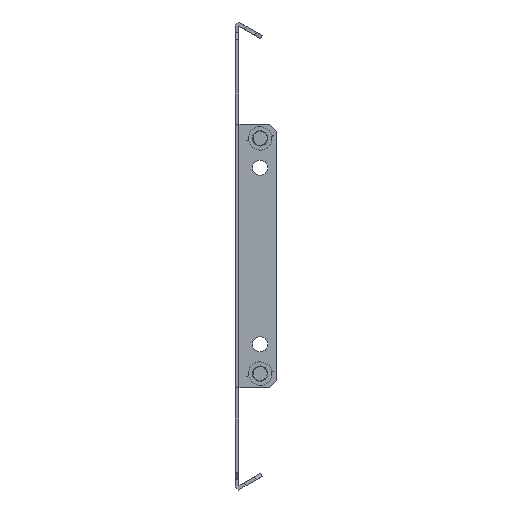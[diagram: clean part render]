
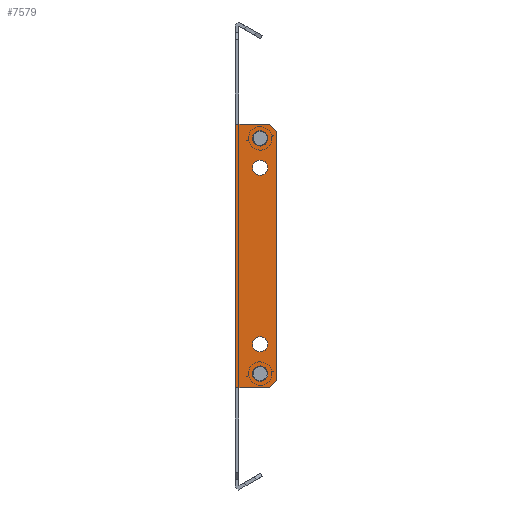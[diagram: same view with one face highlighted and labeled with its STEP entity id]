
A CAD part, front view. The second image highlights one B-rep face of the part: STEP entity #7579.
In plain terms, the highlighted planar face has unit normal (0, -1, 0).
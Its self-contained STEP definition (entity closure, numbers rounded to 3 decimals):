
#24 = VECTOR ( 'NONE', #8765, 1000. ) ;
#180 = AXIS2_PLACEMENT_3D ( 'NONE', #6899, #7798, #6102 ) ;
#203 = DIRECTION ( 'NONE',  ( 0., -1., 0. ) ) ;
#216 = CARTESIAN_POINT ( 'NONE',  ( 7.25, -252.75, 50. ) ) ;
#395 = EDGE_CURVE ( 'NONE', #1467, #9271, #5727, .T. ) ;
#398 = FACE_BOUND ( 'NONE', #7093, .T. ) ;
#463 = AXIS2_PLACEMENT_3D ( 'NONE', #3482, #10094, #9992 ) ;
#486 = EDGE_LOOP ( 'NONE', ( #4556, #6099 ) ) ;
#622 = AXIS2_PLACEMENT_3D ( 'NONE', #5803, #1879, #5916 ) ;
#734 = EDGE_CURVE ( 'NONE', #7539, #1467, #2962, .T. ) ;
#813 = LINE ( 'NONE', #9608, #24 ) ;
#834 = CARTESIAN_POINT ( 'NONE',  ( 0., -252.75, 56. ) ) ;
#839 = ORIENTED_EDGE ( 'NONE', *, *, #8293, .F. ) ;
#978 = DIRECTION ( 'NONE',  ( -1., 0., 0. ) ) ;
#1096 = CARTESIAN_POINT ( 'NONE',  ( 7.25, -252.75, 37.5 ) ) ;
#1154 = AXIS2_PLACEMENT_3D ( 'NONE', #9429, #6248, #2165 ) ;
#1327 = AXIS2_PLACEMENT_3D ( 'NONE', #7760, #10184, #2133 ) ;
#1451 = CARTESIAN_POINT ( 'NONE',  ( 7.25, -252.75, -50. ) ) ;
#1456 = CIRCLE ( 'NONE', #4838, 3.25 ) ;
#1467 = VERTEX_POINT ( 'NONE', #6172 ) ;
#1469 = AXIS2_PLACEMENT_3D ( 'NONE', #2080, #8605, #3617 ) ;
#1571 = CARTESIAN_POINT ( 'NONE',  ( 2.5, -252.75, -56. ) ) ;
#1589 = VERTEX_POINT ( 'NONE', #7423 ) ;
#1609 = CARTESIAN_POINT ( 'NONE',  ( 13.75, -252.75, -37.5 ) ) ;
#1772 = DIRECTION ( 'NONE',  ( 0., -1., 0. ) ) ;
#1826 = DIRECTION ( 'NONE',  ( -1., 0., 0. ) ) ;
#1879 = DIRECTION ( 'NONE',  ( 0., -1., 0. ) ) ;
#2004 = CARTESIAN_POINT ( 'NONE',  ( 0., -252.75, -56. ) ) ;
#2080 = CARTESIAN_POINT ( 'NONE',  ( 10.5, -252.75, 50. ) ) ;
#2098 = CARTESIAN_POINT ( 'NONE',  ( 0., -252.75, 0. ) ) ;
#2113 = EDGE_LOOP ( 'NONE', ( #9831, #3171, #6021, #7032, #3898, #5540, #4479, #6736 ) ) ;
#2133 = DIRECTION ( 'NONE',  ( -1., 0., 0. ) ) ;
#2152 = EDGE_CURVE ( 'NONE', #4531, #6800, #1456, .T. ) ;
#2165 = DIRECTION ( 'NONE',  ( -1., 0., 0. ) ) ;
#2473 = CIRCLE ( 'NONE', #9579, 3.25 ) ;
#2541 = DIRECTION ( 'NONE',  ( -1., 0., 0. ) ) ;
#2631 = EDGE_LOOP ( 'NONE', ( #3222, #7954 ) ) ;
#2654 = CARTESIAN_POINT ( 'NONE',  ( 17.5, -252.75, -53. ) ) ;
#2822 = VERTEX_POINT ( 'NONE', #5088 ) ;
#2926 = EDGE_CURVE ( 'NONE', #7630, #3057, #4584, .T. ) ;
#2962 = LINE ( 'NONE', #5400, #3297 ) ;
#3057 = VERTEX_POINT ( 'NONE', #6205 ) ;
#3171 = ORIENTED_EDGE ( 'NONE', *, *, #8168, .T. ) ;
#3218 = CARTESIAN_POINT ( 'NONE',  ( 0., -252.75, 56. ) ) ;
#3222 = ORIENTED_EDGE ( 'NONE', *, *, #2926, .F. ) ;
#3239 = VERTEX_POINT ( 'NONE', #9265 ) ;
#3297 = VECTOR ( 'NONE', #7258, 1000. ) ;
#3325 = VECTOR ( 'NONE', #7053, 1000. ) ;
#3482 = CARTESIAN_POINT ( 'NONE',  ( 0., -252.75, 0. ) ) ;
#3617 = DIRECTION ( 'NONE',  ( -1., 0., 0. ) ) ;
#3635 = FACE_BOUND ( 'NONE', #3786, .T. ) ;
#3648 = EDGE_CURVE ( 'NONE', #7539, #6244, #4212, .T. ) ;
#3680 = CARTESIAN_POINT ( 'NONE',  ( 17.5, -252.75, 0. ) ) ;
#3687 = LINE ( 'NONE', #2098, #7428 ) ;
#3786 = EDGE_LOOP ( 'NONE', ( #3867, #6129 ) ) ;
#3863 = AXIS2_PLACEMENT_3D ( 'NONE', #8086, #1772, #978 ) ;
#3867 = ORIENTED_EDGE ( 'NONE', *, *, #7080, .F. ) ;
#3898 = ORIENTED_EDGE ( 'NONE', *, *, #9023, .T. ) ;
#3961 = CARTESIAN_POINT ( 'NONE',  ( 7.25, -252.75, -37.5 ) ) ;
#3974 = CARTESIAN_POINT ( 'NONE',  ( 14.5, -252.75, 56. ) ) ;
#4212 = LINE ( 'NONE', #6808, #6303 ) ;
#4223 = FACE_OUTER_BOUND ( 'NONE', #2113, .T. ) ;
#4473 = LINE ( 'NONE', #3680, #5167 ) ;
#4479 = ORIENTED_EDGE ( 'NONE', *, *, #734, .T. ) ;
#4531 = VERTEX_POINT ( 'NONE', #5029 ) ;
#4556 = ORIENTED_EDGE ( 'NONE', *, *, #8628, .F. ) ;
#4584 = CIRCLE ( 'NONE', #180, 3.25 ) ;
#4640 = VECTOR ( 'NONE', #8218, 1000. ) ;
#4838 = AXIS2_PLACEMENT_3D ( 'NONE', #6821, #8474, #8621 ) ;
#5029 = CARTESIAN_POINT ( 'NONE',  ( 13.75, -252.75, -50. ) ) ;
#5056 = VERTEX_POINT ( 'NONE', #7018 ) ;
#5064 = FACE_BOUND ( 'NONE', #486, .T. ) ;
#5088 = CARTESIAN_POINT ( 'NONE',  ( 13.75, -252.75, 50. ) ) ;
#5167 = VECTOR ( 'NONE', #6917, 1000. ) ;
#5326 = DIRECTION ( 'NONE',  ( 0., 0., -1. ) ) ;
#5400 = CARTESIAN_POINT ( 'NONE',  ( 0., -252.75, -56. ) ) ;
#5540 = ORIENTED_EDGE ( 'NONE', *, *, #3648, .F. ) ;
#5630 = EDGE_CURVE ( 'NONE', #3239, #8723, #813, .T. ) ;
#5654 = LINE ( 'NONE', #834, #9609 ) ;
#5691 = CIRCLE ( 'NONE', #1469, 3.25 ) ;
#5717 = CIRCLE ( 'NONE', #1154, 3.25 ) ;
#5727 = LINE ( 'NONE', #2654, #4640 ) ;
#5803 = CARTESIAN_POINT ( 'NONE',  ( 10.5, -252.75, -37.5 ) ) ;
#5916 = DIRECTION ( 'NONE',  ( -1., 0., 0. ) ) ;
#6021 = ORIENTED_EDGE ( 'NONE', *, *, #9969, .T. ) ;
#6099 = ORIENTED_EDGE ( 'NONE', *, *, #6624, .F. ) ;
#6102 = DIRECTION ( 'NONE',  ( -1., 0., 0. ) ) ;
#6129 = ORIENTED_EDGE ( 'NONE', *, *, #9360, .F. ) ;
#6172 = CARTESIAN_POINT ( 'NONE',  ( 14.5, -252.75, -56. ) ) ;
#6205 = CARTESIAN_POINT ( 'NONE',  ( 13.75, -252.75, 37.5 ) ) ;
#6244 = VERTEX_POINT ( 'NONE', #2004 ) ;
#6248 = DIRECTION ( 'NONE',  ( 0., -1., 0. ) ) ;
#6303 = VECTOR ( 'NONE', #1826, 1000. ) ;
#6459 = CARTESIAN_POINT ( 'NONE',  ( 10.5, -252.75, -50. ) ) ;
#6506 = DIRECTION ( 'NONE',  ( -1., 0., 0. ) ) ;
#6624 = EDGE_CURVE ( 'NONE', #9120, #9826, #7909, .T. ) ;
#6736 = ORIENTED_EDGE ( 'NONE', *, *, #395, .T. ) ;
#6800 = VERTEX_POINT ( 'NONE', #1451 ) ;
#6804 = EDGE_CURVE ( 'NONE', #9271, #5056, #4473, .T. ) ;
#6808 = CARTESIAN_POINT ( 'NONE',  ( 0., -252.75, -56. ) ) ;
#6821 = CARTESIAN_POINT ( 'NONE',  ( 10.5, -252.75, -50. ) ) ;
#6899 = CARTESIAN_POINT ( 'NONE',  ( 10.5, -252.75, 37.5 ) ) ;
#6917 = DIRECTION ( 'NONE',  ( 0., 0., 1. ) ) ;
#7018 = CARTESIAN_POINT ( 'NONE',  ( 17.5, -252.75, 53. ) ) ;
#7032 = ORIENTED_EDGE ( 'NONE', *, *, #5630, .T. ) ;
#7053 = DIRECTION ( 'NONE',  ( -0.707, 0., 0.707 ) ) ;
#7080 = EDGE_CURVE ( 'NONE', #7266, #2822, #5691, .T. ) ;
#7093 = EDGE_LOOP ( 'NONE', ( #839, #9736 ) ) ;
#7258 = DIRECTION ( 'NONE',  ( 1., 0., 0. ) ) ;
#7266 = VERTEX_POINT ( 'NONE', #216 ) ;
#7423 = CARTESIAN_POINT ( 'NONE',  ( 14.5, -252.75, 56. ) ) ;
#7428 = VECTOR ( 'NONE', #5326, 1000. ) ;
#7539 = VERTEX_POINT ( 'NONE', #1571 ) ;
#7579 = ADVANCED_FACE ( 'NONE', ( #3635, #8473, #398, #5064, #4223 ), #8421, .F. ) ;
#7630 = VERTEX_POINT ( 'NONE', #1096 ) ;
#7657 = CARTESIAN_POINT ( 'NONE',  ( 17.5, -252.75, -53. ) ) ;
#7760 = CARTESIAN_POINT ( 'NONE',  ( 10.5, -252.75, 50. ) ) ;
#7798 = DIRECTION ( 'NONE',  ( 0., -1., 0. ) ) ;
#7848 = LINE ( 'NONE', #3974, #3325 ) ;
#7909 = CIRCLE ( 'NONE', #622, 3.25 ) ;
#7954 = ORIENTED_EDGE ( 'NONE', *, *, #10351, .F. ) ;
#8086 = CARTESIAN_POINT ( 'NONE',  ( 10.5, -252.75, 37.5 ) ) ;
#8168 = EDGE_CURVE ( 'NONE', #5056, #1589, #7848, .T. ) ;
#8218 = DIRECTION ( 'NONE',  ( 0.707, 0., 0.707 ) ) ;
#8293 = EDGE_CURVE ( 'NONE', #6800, #4531, #2473, .T. ) ;
#8421 = PLANE ( 'NONE',  #463 ) ;
#8473 = FACE_BOUND ( 'NONE', #2631, .T. ) ;
#8474 = DIRECTION ( 'NONE',  ( 0., -1., 0. ) ) ;
#8605 = DIRECTION ( 'NONE',  ( 0., -1., 0. ) ) ;
#8614 = CIRCLE ( 'NONE', #1327, 3.25 ) ;
#8621 = DIRECTION ( 'NONE',  ( -1., 0., 0. ) ) ;
#8628 = EDGE_CURVE ( 'NONE', #9826, #9120, #5717, .T. ) ;
#8723 = VERTEX_POINT ( 'NONE', #3218 ) ;
#8765 = DIRECTION ( 'NONE',  ( -1., 0., 0. ) ) ;
#9023 = EDGE_CURVE ( 'NONE', #8723, #6244, #3687, .T. ) ;
#9120 = VERTEX_POINT ( 'NONE', #1609 ) ;
#9265 = CARTESIAN_POINT ( 'NONE',  ( 2.5, -252.75, 56. ) ) ;
#9271 = VERTEX_POINT ( 'NONE', #7657 ) ;
#9360 = EDGE_CURVE ( 'NONE', #2822, #7266, #8614, .T. ) ;
#9429 = CARTESIAN_POINT ( 'NONE',  ( 10.5, -252.75, -37.5 ) ) ;
#9579 = AXIS2_PLACEMENT_3D ( 'NONE', #6459, #203, #2541 ) ;
#9608 = CARTESIAN_POINT ( 'NONE',  ( 2.5, -252.75, 56. ) ) ;
#9609 = VECTOR ( 'NONE', #6506, 1000. ) ;
#9736 = ORIENTED_EDGE ( 'NONE', *, *, #2152, .F. ) ;
#9826 = VERTEX_POINT ( 'NONE', #3961 ) ;
#9831 = ORIENTED_EDGE ( 'NONE', *, *, #6804, .T. ) ;
#9969 = EDGE_CURVE ( 'NONE', #1589, #3239, #5654, .T. ) ;
#9992 = DIRECTION ( 'NONE',  ( 1., 0., 0. ) ) ;
#10094 = DIRECTION ( 'NONE',  ( 0., 1., 0. ) ) ;
#10123 = CIRCLE ( 'NONE', #3863, 3.25 ) ;
#10184 = DIRECTION ( 'NONE',  ( 0., -1., 0. ) ) ;
#10351 = EDGE_CURVE ( 'NONE', #3057, #7630, #10123, .T. ) ;
